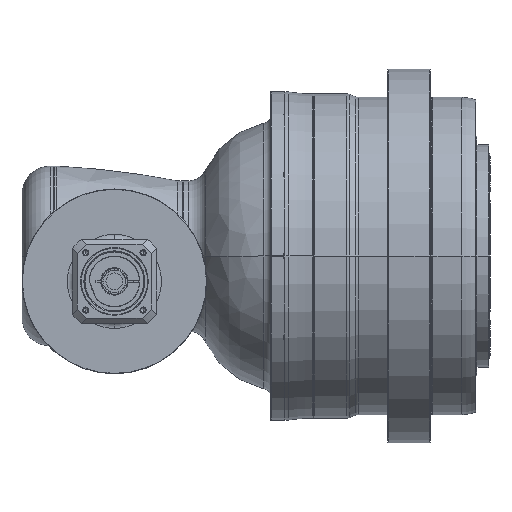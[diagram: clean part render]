
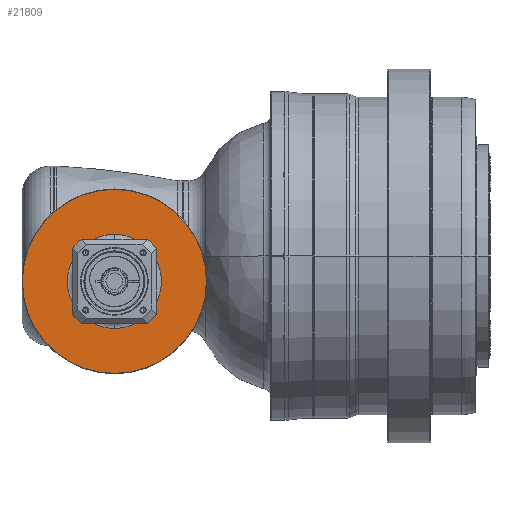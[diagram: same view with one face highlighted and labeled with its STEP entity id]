
A CAD part, front view. The second image highlights one B-rep face of the part: STEP entity #21809.
In plain terms, the highlighted planar face has unit normal (0, -1, 0) as drawn and (1, 0, 0) by its records, which use the part's own axes.
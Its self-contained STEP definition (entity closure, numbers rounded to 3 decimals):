
#20840=CARTESIAN_POINT('',(-11.5,0.,0.));
#20841=DIRECTION('',(-1.,0.,0.));
#20842=DIRECTION('',(0.,-1.,0.));
#20843=AXIS2_PLACEMENT_3D('',#20840,#20841,#20842);
#20845=CARTESIAN_POINT('',(-11.5,0.,0.));
#20846=DIRECTION('',(-1.,0.,0.));
#20847=DIRECTION('',(0.,1.,0.));
#20848=AXIS2_PLACEMENT_3D('',#20845,#20846,#20847);
#20850=CARTESIAN_POINT('',(-11.5,0.,0.));
#20851=DIRECTION('',(-1.,0.,0.));
#20852=DIRECTION('',(0.,-1.,0.));
#20853=AXIS2_PLACEMENT_3D('',#20850,#20851,#20852);
#20855=CARTESIAN_POINT('',(-11.5,0.,0.));
#20856=DIRECTION('',(-1.,0.,0.));
#20857=DIRECTION('',(0.,1.,0.));
#20858=AXIS2_PLACEMENT_3D('',#20855,#20856,#20857);
#21102=CARTESIAN_POINT('',(-11.5,-130.5,0.));
#21103=CARTESIAN_POINT('',(-11.5,130.5,0.));
#21104=VERTEX_POINT('',#21102);
#21105=VERTEX_POINT('',#21103);
#21160=CARTESIAN_POINT('',(-11.5,-66.75,0.));
#21161=CARTESIAN_POINT('',(-11.5,66.75,0.));
#21162=VERTEX_POINT('',#21160);
#21163=VERTEX_POINT('',#21161);
#21794=CARTESIAN_POINT('',(-11.5,0.,0.));
#21795=DIRECTION('',(1.,0.,0.));
#21796=DIRECTION('',(0.,-1.,0.));
#21797=AXIS2_PLACEMENT_3D('',#21794,#21795,#21796);
#21798=PLANE('',#21797);
#21799=ORIENTED_EDGE('',*,*,#21750,.T.);
#21800=ORIENTED_EDGE('',*,*,#21735,.T.);
#21801=EDGE_LOOP('',(#21799,#21800));
#21802=FACE_OUTER_BOUND('',#21801,.F.);
#21804=ORIENTED_EDGE('',*,*,#21803,.F.);
#21806=ORIENTED_EDGE('',*,*,#21805,.F.);
#21807=EDGE_LOOP('',(#21804,#21806));
#21808=FACE_BOUND('',#21807,.F.);
#21809=ADVANCED_FACE('',(#21802,#21808),#21798,.T.);
#20844=CIRCLE('',#20843,66.75);
#20849=CIRCLE('',#20848,66.75);
#20854=CIRCLE('',#20853,130.5);
#20859=CIRCLE('',#20858,130.5);
#21735=EDGE_CURVE('',#21105,#21104,#20859,.T.);
#21750=EDGE_CURVE('',#21104,#21105,#20854,.T.);
#21803=EDGE_CURVE('',#21162,#21163,#20844,.T.);
#21805=EDGE_CURVE('',#21163,#21162,#20849,.T.);
